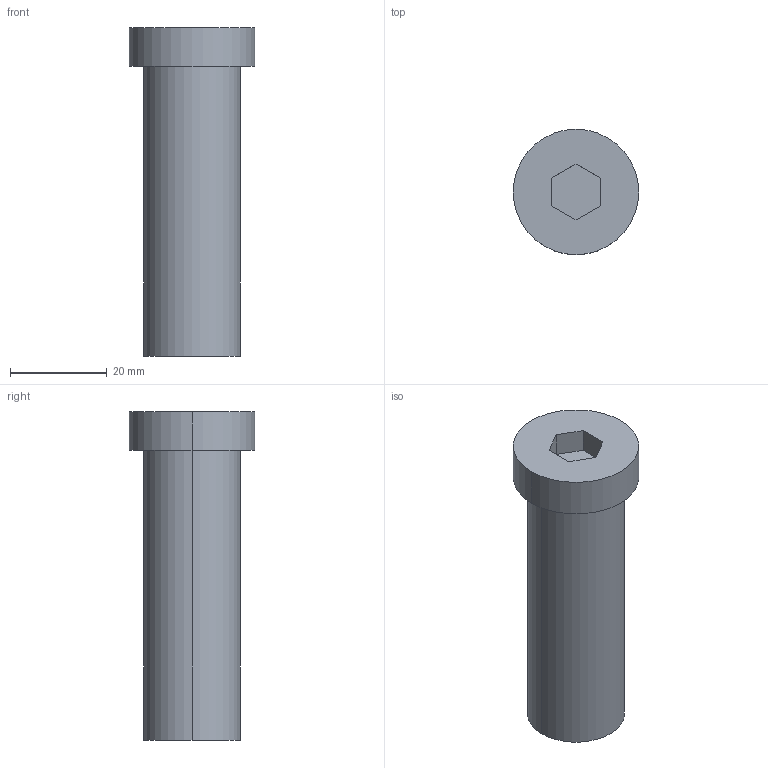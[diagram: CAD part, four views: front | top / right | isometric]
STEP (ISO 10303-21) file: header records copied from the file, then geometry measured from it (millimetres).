
FILE_DESCRIPTION (( 'STEP AP214' ), '1' );
FILE_NAME ('BruyRubio_TGH__20_x_60_-_M-14.STEP', '2019-12-22T23:39:07', ( '' ), ( '' ), 'SwSTEP 2.0', 'SolidWorks 2017', '' );
FILE_SCHEMA (( 'AUTOMOTIVE_DESIGN' ));
Length unit declared in the file: millimetre
Products named in the file (1): BruyRubio_TGH__20_x_60_-_M-14
Bounding box: 26 x 26 x 68 mm (x, y, z)
Volume: 19170.9 mm3; surface area: 9030.4 mm2
Topology: 2 solids, 2 shells, 27 faces, 58 edges, 37 vertices
Faces by surface type: plane 13, cylinder 12, cone 2
Entity records: 1070 total; most frequent: DIRECTION 136, CARTESIAN_POINT 121, ORIENTED_EDGE 112, EDGE_CURVE 56, AXIS2_PLACEMENT_3D 52, VERTEX_POINT 37, EDGE_LOOP 33, VECTOR 32
